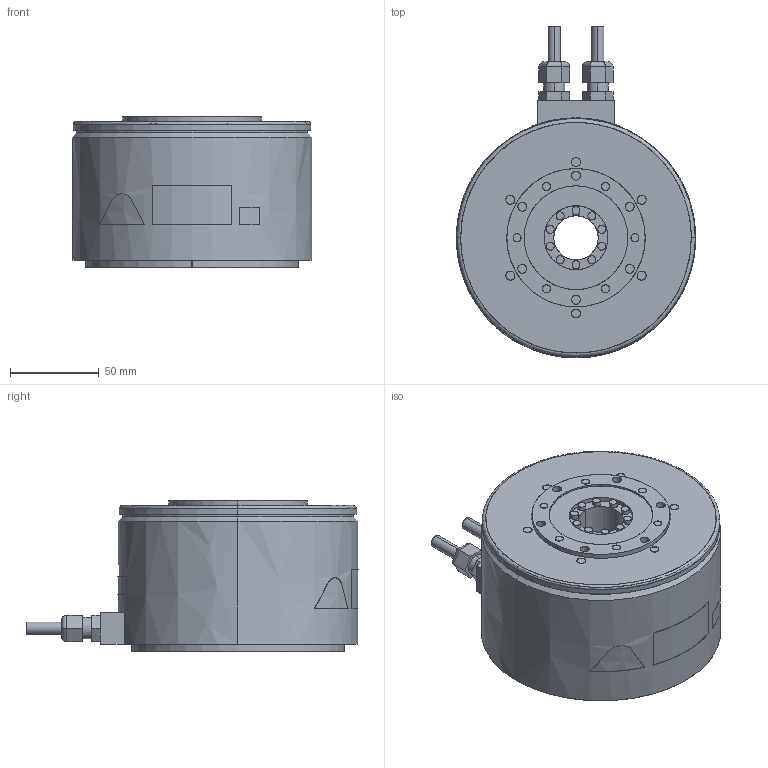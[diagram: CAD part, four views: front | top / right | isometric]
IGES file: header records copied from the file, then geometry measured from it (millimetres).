
Start section: SolidWorks IGES file using analytic representation for surfaces
Global section: file name: D:\YASKAWA\sgm7f_10b_a4_.IGS; native system: SolidWorks 2006 by SolidWorks Corporation; preprocessor: SolidWorks 2006 by SolidWorks Corporation; author: yamanouchi; date: 160724.152657; units: millimetre
Bounding box: 135 x 187.2 x 85 mm (x, y, z)
Surface area: 93394.4 mm2 (no closed solid volume)
Topology: 0 solids, 0 shells, 250 faces, 5386 edges, 5386 vertices
Faces by surface type: revolution 141, bspline 109
